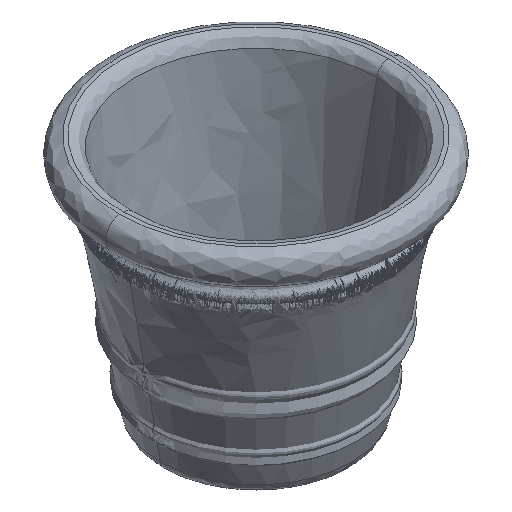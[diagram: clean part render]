
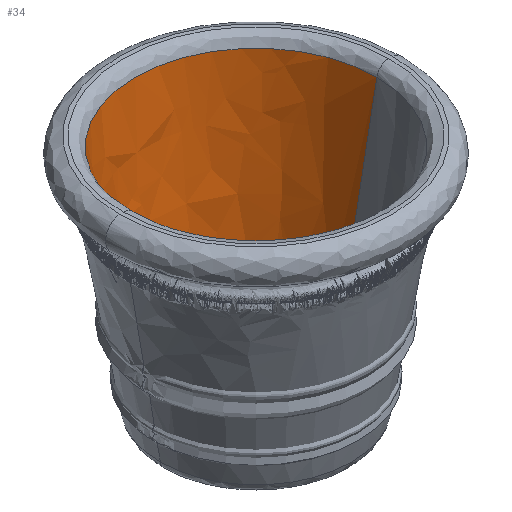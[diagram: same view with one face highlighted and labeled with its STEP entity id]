
A CAD part, isometric view. The second image highlights one B-rep face of the part: STEP entity #34.
In plain terms, the highlighted free-form (B-spline) face has degree [2, 1] with [5, 2] control points.
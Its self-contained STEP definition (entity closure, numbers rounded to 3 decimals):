
#34=ADVANCED_FACE('',(#56),#333,.T.);
#56=FACE_OUTER_BOUND('',#80,.T.);
#80=EDGE_LOOP('',(#156,#157,#158,#159));
#156=ORIENTED_EDGE('',*,*,#209,.T.);
#157=ORIENTED_EDGE('',*,*,#184,.T.);
#158=ORIENTED_EDGE('',*,*,#207,.F.);
#159=ORIENTED_EDGE('',*,*,#208,.F.);
#184=EDGE_CURVE('',#297,#295,#216,.T.);
#207=EDGE_CURVE('',#309,#295,#253,.T.);
#208=EDGE_CURVE('',#310,#309,#219,.T.);
#209=EDGE_CURVE('',#310,#297,#254,.T.);
#216=B_SPLINE_CURVE_WITH_KNOTS('',1,(#1511,#1512),.UNSPECIFIED.,.F.,.F.,
(2,2),(24.978,573.839),.UNSPECIFIED.);
#219=B_SPLINE_CURVE_WITH_KNOTS('',1,(#1650,#1651),.UNSPECIFIED.,.F.,.F.,
(2,2),(24.978,573.839),.UNSPECIFIED.);
#253=TRIMMED_CURVE($,#283,(#1648),(#1649),.T.,.CARTESIAN.);
#254=TRIMMED_CURVE($,#284,(#1653),(#1654),.T.,.CARTESIAN.);
#283=CIRCLE('',#453,214.316);
#284=CIRCLE('',#454,329.148);
#295=VERTEX_POINT('',#1383);
#297=VERTEX_POINT('',#1385);
#309=VERTEX_POINT('',#1397);
#310=VERTEX_POINT('',#1398);
#333=(
BOUNDED_SURFACE()
B_SPLINE_SURFACE(2,1,((#1337,#1338),(#1339,#1340),(#1341,#1342),(#1343,
#1344),(#1345,#1346)),.UNSPECIFIED.,.F.,.F.,.F.)
B_SPLINE_SURFACE_WITH_KNOTS((3,2,3),(2,2),(934.624,1401.936,
1869.248),(0.,573.839),.UNSPECIFIED.)
GEOMETRIC_REPRESENTATION_ITEM()
RATIONAL_B_SPLINE_SURFACE(((1.,1.),(0.707,0.707),
(1.,1.),(0.707,0.707),(1.,1.)))
REPRESENTATION_ITEM('')
SURFACE()
);
#453=AXIS2_PLACEMENT_3D($,#1647,#515,#516);
#454=AXIS2_PLACEMENT_3D($,#1652,#517,#518);
#515=DIRECTION('',(0.,0.,1.));
#516=DIRECTION('',(1.,0.,0.));
#517=DIRECTION('',(0.,0.,1.));
#518=DIRECTION('',(1.,0.,0.));
#1337=CARTESIAN_POINT('',(1163.816,0.,668.749));
#1338=CARTESIAN_POINT('',(1043.758,0.,39.235));
#1339=CARTESIAN_POINT('',(1163.816,334.374,668.749));
#1340=CARTESIAN_POINT('',(1043.758,214.316,39.235));
#1341=CARTESIAN_POINT('',(829.442,334.374,668.749));
#1342=CARTESIAN_POINT('',(829.442,214.316,39.235));
#1343=CARTESIAN_POINT('',(495.067,334.374,668.749));
#1344=CARTESIAN_POINT('',(615.126,214.316,39.235));
#1345=CARTESIAN_POINT('',(495.067,0.,668.749));
#1346=CARTESIAN_POINT('',(615.126,0.,39.235));
#1383=CARTESIAN_POINT('',(615.126,0.,39.235));
#1385=CARTESIAN_POINT('',(500.293,0.,641.347));
#1397=CARTESIAN_POINT('',(1043.758,0.,39.235));
#1398=CARTESIAN_POINT('',(1158.59,0.,641.347));
#1511=CARTESIAN_POINT('',(500.293,0.,641.347));
#1512=CARTESIAN_POINT('',(615.126,0.,39.235));
#1647=CARTESIAN_POINT('',(829.442,0.,39.235));
#1648=CARTESIAN_POINT('',(1043.758,0.,39.235));
#1649=CARTESIAN_POINT('',(615.126,0.,39.235));
#1650=CARTESIAN_POINT('',(1158.59,0.,641.347));
#1651=CARTESIAN_POINT('',(1043.758,0.,39.235));
#1652=CARTESIAN_POINT('',(829.442,0.,641.347));
#1653=CARTESIAN_POINT('',(1158.59,0.,641.347));
#1654=CARTESIAN_POINT('',(500.293,0.,641.347));
